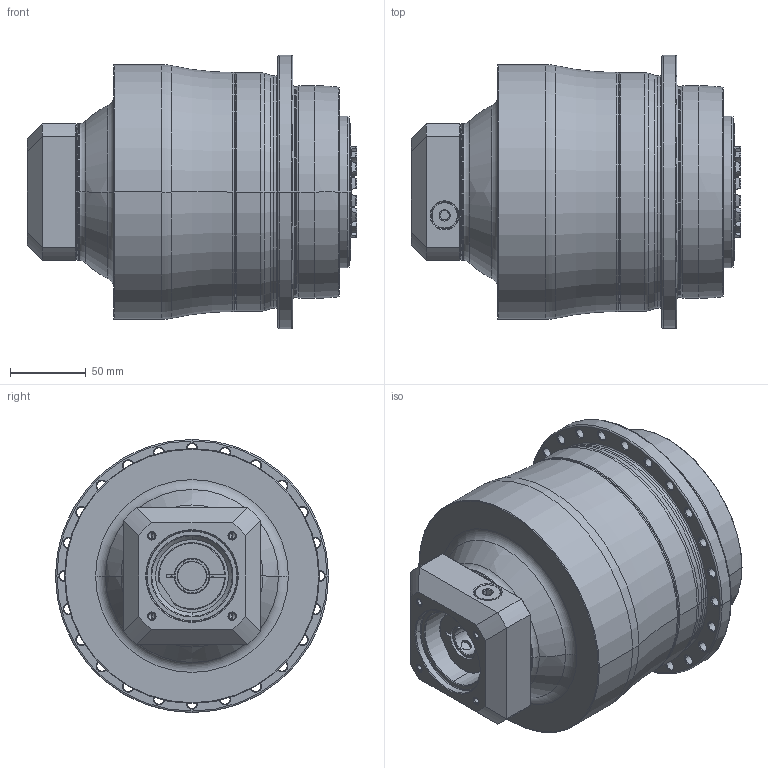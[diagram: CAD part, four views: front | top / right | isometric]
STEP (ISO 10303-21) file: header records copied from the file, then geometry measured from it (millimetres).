
FILE_DESCRIPTION((''),'2;1');
FILE_NAME('APC140_3ST_19-P0409400201_ASM','2018-07-03T',('d01226'),(''),'PRO/ENGINEER BY PARAMETRIC TECHNOLOGY CORPORATION, 2008410','PRO/ENGINEER BY PARAMETRIC TECHNOLOGY CORPORATION, 2008410','');
FILE_SCHEMA(('CONFIG_CONTROL_DESIGN'));
Length unit declared in the file: millimetre
Products named in the file (9): P0278501003; P03595D0103; P1366500101; P0503400006; P0912302001; P1211500001; P0409400201; 21711412017; APC140_3ST_19-P0409400201_ASM
Assembly tree (8 placements, depth 2):
  APC140_3ST_19-P0409400201_ASM
    P0278501003
    P03595D0103
    P1366500101
    P0503400006
    P0912302001
    P1211500001
    P0409400201
    21711412017
Bounding box: 217.1 x 180 x 180 mm (x, y, z)
Volume: 3423846.6 mm3; surface area: 281513.5 mm2
Topology: 9 solids, 19 shells, 675 faces, 1619 edges, 983 vertices
Faces by surface type: cone 226, cylinder 206, plane 121, torus 106, bspline 16
Entity records: 24640 total; most frequent: CARTESIAN_POINT 8534, DIRECTION 3607, ORIENTED_EDGE 3160, EDGE_CURVE 1601, AXIS2_PLACEMENT_3D 1567, VERTEX_POINT 983, CIRCLE 881, EDGE_LOOP 776
